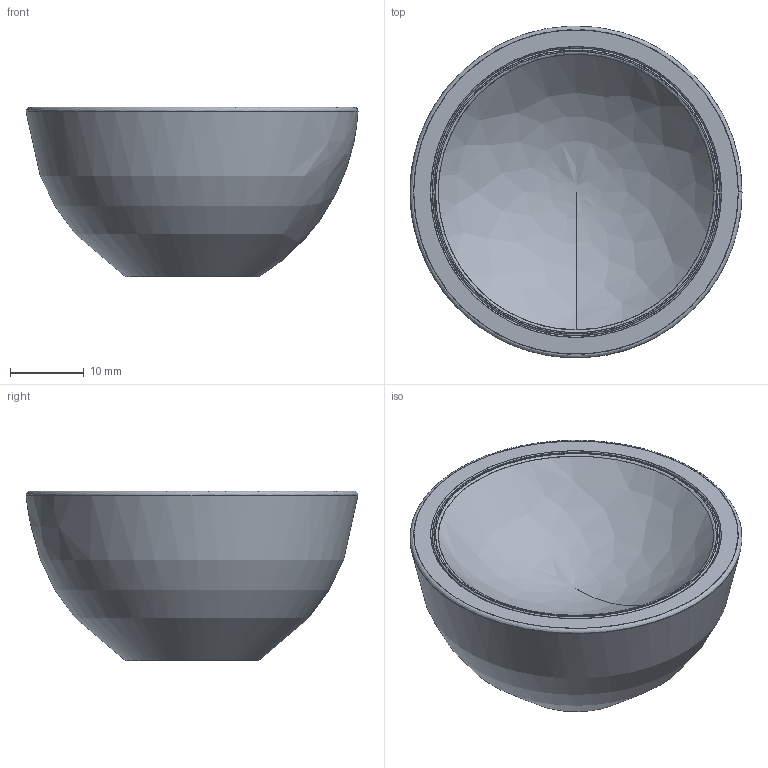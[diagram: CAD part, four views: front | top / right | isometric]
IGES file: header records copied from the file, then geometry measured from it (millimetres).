
Start section: C
Global section: file name: 8284-45.igs; native system: By Siemens PLM Incorporated; preprocessor: XPlus GENERIC/IGES 16.0.42; author: Author; organization: Title; date: 20210505.105025; units: millimetre
Bounding box: 44.99 x 44.98 x 23 mm (x, y, z)
Surface area: 10037.2 mm2 (no closed solid volume)
Topology: 0 solids, 0 shells, 29 faces, 153 edges, 152 vertices
Faces by surface type: bspline 29
